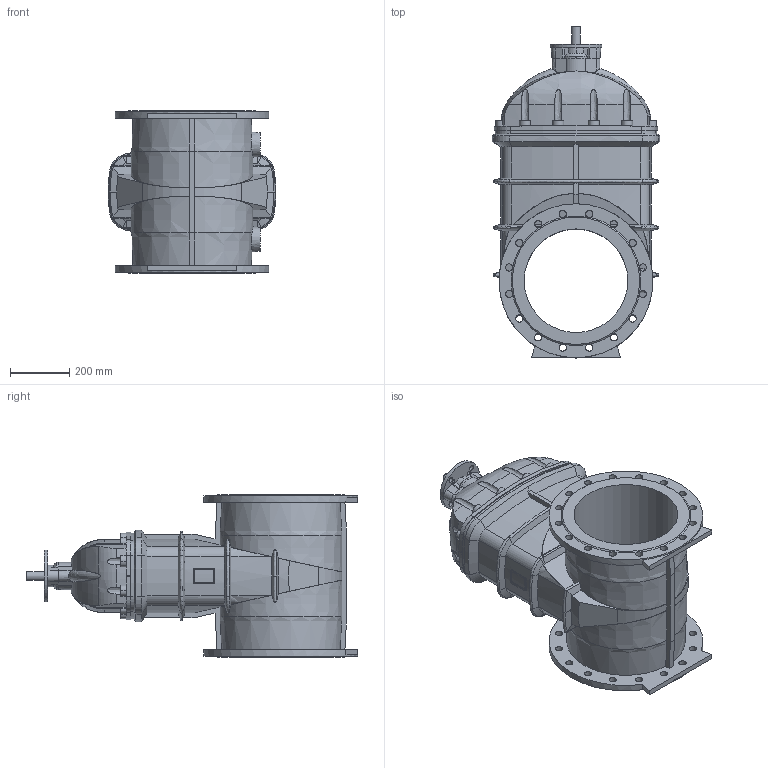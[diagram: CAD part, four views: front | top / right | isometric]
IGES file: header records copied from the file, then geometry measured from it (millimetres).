
Start section: SolidWorks IGES file using analytic representation for surfaces
Global section: file name: D:\Arthur\For Will\Finished\O_15_72_DN350 without AUMA\O_15_72_DN350_00_iges.IGS; native system: SolidWorks 2012; preprocessor: SolidWorks 2012; author: aran; date: 150521.093037; units: millimetre
Bounding box: 566.75 x 1121 x 550 mm (x, y, z)
Surface area: 2850472.1 mm2 (no closed solid volume)
Topology: 0 solids, 0 shells, 501 faces, 2963 edges, 2905 vertices
Faces by surface type: revolution 295, bspline 206
